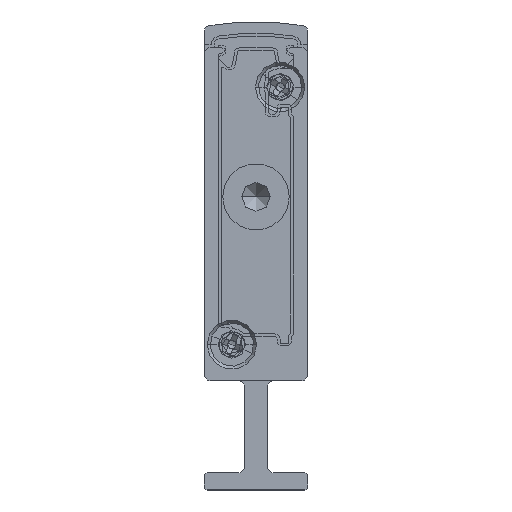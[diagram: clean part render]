
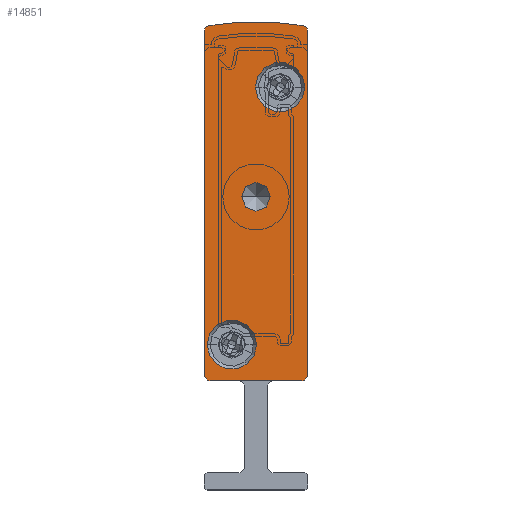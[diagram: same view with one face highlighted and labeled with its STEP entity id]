
A CAD part, front view. The second image highlights one B-rep face of the part: STEP entity #14851.
In plain terms, the highlighted planar face has unit normal (0, -1, 0).
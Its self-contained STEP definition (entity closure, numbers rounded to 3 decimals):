
#195 = CARTESIAN_POINT ( 'NONE',  ( 9., -2.5, 39.902 ) ) ;
#363 = CARTESIAN_POINT ( 'NONE',  ( 0.5, -2.5, 9.5 ) ) ;
#746 = DIRECTION ( 'NONE',  ( 0., 1., 0. ) ) ;
#1040 = CIRCLE ( 'NONE', #24883, 0.5 ) ;
#1527 = CARTESIAN_POINT ( 'NONE',  ( 4.45, -2.5, 35.05 ) ) ;
#1553 = VERTEX_POINT ( 'NONE', #28549 ) ;
#1564 = AXIS2_PLACEMENT_3D ( 'NONE', #1580, #14785, #32789 ) ;
#1580 = CARTESIAN_POINT ( 'NONE',  ( 4.5, -2.5, 17.092 ) ) ;
#1626 = CARTESIAN_POINT ( 'NONE',  ( 4.5, -2.5, 25.5 ) ) ;
#1858 = CARTESIAN_POINT ( 'NONE',  ( 9., -2.5, 39.902 ) ) ;
#2607 = VERTEX_POINT ( 'NONE', #23679 ) ;
#2705 = EDGE_LOOP ( 'NONE', ( #8059, #23658 ) ) ;
#2905 = ORIENTED_EDGE ( 'NONE', *, *, #10804, .T. ) ;
#3435 = CIRCLE ( 'NONE', #33005, 1.25 ) ;
#3471 = DIRECTION ( 'NONE',  ( 0., 1., 0. ) ) ;
#3594 = EDGE_CURVE ( 'NONE', #1553, #24742, #21999, .T. ) ;
#3724 = DIRECTION ( 'NONE',  ( -1., 0., 0. ) ) ;
#4087 = DIRECTION ( 'NONE',  ( 0., -1., 0. ) ) ;
#4540 = FACE_OUTER_BOUND ( 'NONE', #31532, .T. ) ;
#4893 = DIRECTION ( 'NONE',  ( 1., 0., 0. ) ) ;
#5768 = ORIENTED_EDGE ( 'NONE', *, *, #20514, .F. ) ;
#6036 = VERTEX_POINT ( 'NONE', #31776 ) ;
#6201 = VERTEX_POINT ( 'NONE', #12259 ) ;
#6414 = CARTESIAN_POINT ( 'NONE',  ( 8.75, -2.5, 35.05 ) ) ;
#6557 = FACE_BOUND ( 'NONE', #12579, .T. ) ;
#6597 = DIRECTION ( 'NONE',  ( 0., 1., 0. ) ) ;
#6672 = CARTESIAN_POINT ( 'NONE',  ( 0.408, -2.5, 40.393 ) ) ;
#6696 = DIRECTION ( 'NONE',  ( 1., 0., 0. ) ) ;
#7284 = CARTESIAN_POINT ( 'NONE',  ( 2.4, -2.5, 12.65 ) ) ;
#8045 = EDGE_CURVE ( 'NONE', #31394, #1553, #19848, .T. ) ;
#8059 = ORIENTED_EDGE ( 'NONE', *, *, #30295, .F. ) ;
#8340 = VECTOR ( 'NONE', #29614, 1000. ) ;
#8553 = ORIENTED_EDGE ( 'NONE', *, *, #8045, .F. ) ;
#8890 = DIRECTION ( 'NONE',  ( -1., 0., 0. ) ) ;
#9045 = DIRECTION ( 'NONE',  ( 0., 1., 0. ) ) ;
#9182 = ORIENTED_EDGE ( 'NONE', *, *, #17121, .F. ) ;
#9737 = VERTEX_POINT ( 'NONE', #195 ) ;
#9767 = FACE_BOUND ( 'NONE', #2705, .T. ) ;
#10161 = ORIENTED_EDGE ( 'NONE', *, *, #20490, .T. ) ;
#10175 = AXIS2_PLACEMENT_3D ( 'NONE', #27470, #32610, #24514 ) ;
#10804 = EDGE_CURVE ( 'NONE', #16239, #20178, #3435, .T. ) ;
#11852 = EDGE_LOOP ( 'NONE', ( #2905, #10161 ) ) ;
#11909 = CIRCLE ( 'NONE', #17206, 0.5 ) ;
#12007 = CARTESIAN_POINT ( 'NONE',  ( 0., -2.5, 39.902 ) ) ;
#12045 = AXIS2_PLACEMENT_3D ( 'NONE', #16105, #746, #21326 ) ;
#12259 = CARTESIAN_POINT ( 'NONE',  ( 0., -2.5, 10. ) ) ;
#12329 = LINE ( 'NONE', #12007, #30910 ) ;
#12579 = EDGE_LOOP ( 'NONE', ( #25500, #18620 ) ) ;
#12636 = CIRCLE ( 'NONE', #25398, 2.15 ) ;
#12711 = CIRCLE ( 'NONE', #33371, 2.15 ) ;
#13288 = EDGE_CURVE ( 'NONE', #13713, #14904, #27720, .T. ) ;
#13370 = CIRCLE ( 'NONE', #10175, 2.15 ) ;
#13713 = VERTEX_POINT ( 'NONE', #26703 ) ;
#13961 = ORIENTED_EDGE ( 'NONE', *, *, #13288, .F. ) ;
#14023 = DIRECTION ( 'NONE',  ( -1., 0., 0. ) ) ;
#14136 = CARTESIAN_POINT ( 'NONE',  ( 8.5, -2.5, 10. ) ) ;
#14184 = CARTESIAN_POINT ( 'NONE',  ( 4.5, -2.5, 25.5 ) ) ;
#14410 = DIRECTION ( 'NONE',  ( 1., 0., 0. ) ) ;
#14464 = EDGE_CURVE ( 'NONE', #6036, #2607, #12636, .T. ) ;
#14785 = DIRECTION ( 'NONE',  ( 0., 1., 0. ) ) ;
#14851 = ADVANCED_FACE ( 'NONE', ( #6557, #9767, #4540, #16678 ), #26637, .F. ) ;
#14904 = VERTEX_POINT ( 'NONE', #6672 ) ;
#15184 = CARTESIAN_POINT ( 'NONE',  ( 3.25, -2.5, 25.5 ) ) ;
#16105 = CARTESIAN_POINT ( 'NONE',  ( 0.5, -2.5, 39.902 ) ) ;
#16239 = VERTEX_POINT ( 'NONE', #15184 ) ;
#16304 = AXIS2_PLACEMENT_3D ( 'NONE', #1626, #32486, #22116 ) ;
#16655 = CARTESIAN_POINT ( 'NONE',  ( 2.4, -2.5, 12.65 ) ) ;
#16678 = FACE_BOUND ( 'NONE', #11852, .T. ) ;
#16889 = DIRECTION ( 'NONE',  ( -1., 0., 0. ) ) ;
#17121 = EDGE_CURVE ( 'NONE', #14904, #24388, #19034, .T. ) ;
#17206 = AXIS2_PLACEMENT_3D ( 'NONE', #21655, #6597, #26996 ) ;
#17452 = DIRECTION ( 'NONE',  ( 0., 0., -1. ) ) ;
#17780 = CARTESIAN_POINT ( 'NONE',  ( 8.592, -2.5, 40.393 ) ) ;
#18139 = EDGE_CURVE ( 'NONE', #24223, #28793, #31861, .T. ) ;
#18620 = ORIENTED_EDGE ( 'NONE', *, *, #18139, .F. ) ;
#19034 = CIRCLE ( 'NONE', #1564, 23.658 ) ;
#19517 = DIRECTION ( 'NONE',  ( 0., 1., 0. ) ) ;
#19848 = CIRCLE ( 'NONE', #29636, 0.5 ) ;
#19959 = CARTESIAN_POINT ( 'NONE',  ( 5.75, -2.5, 25.5 ) ) ;
#20178 = VERTEX_POINT ( 'NONE', #19959 ) ;
#20182 = AXIS2_PLACEMENT_3D ( 'NONE', #24434, #29829, #14410 ) ;
#20186 = EDGE_CURVE ( 'NONE', #6201, #13713, #12329, .T. ) ;
#20490 = EDGE_CURVE ( 'NONE', #20178, #16239, #27670, .T. ) ;
#20514 = EDGE_CURVE ( 'NONE', #24742, #6201, #1040, .T. ) ;
#20637 = ORIENTED_EDGE ( 'NONE', *, *, #20186, .F. ) ;
#21326 = DIRECTION ( 'NONE',  ( -1., 0., 0. ) ) ;
#21655 = CARTESIAN_POINT ( 'NONE',  ( 8.5, -2.5, 39.902 ) ) ;
#21999 = LINE ( 'NONE', #26720, #8340 ) ;
#22001 = CARTESIAN_POINT ( 'NONE',  ( 0.5, -2.5, 10. ) ) ;
#22116 = DIRECTION ( 'NONE',  ( -1., 0., 0. ) ) ;
#22221 = ORIENTED_EDGE ( 'NONE', *, *, #30272, .F. ) ;
#22576 = DIRECTION ( 'NONE',  ( 0., -1., 0. ) ) ;
#23463 = EDGE_CURVE ( 'NONE', #9737, #31394, #33277, .T. ) ;
#23482 = ORIENTED_EDGE ( 'NONE', *, *, #3594, .F. ) ;
#23658 = ORIENTED_EDGE ( 'NONE', *, *, #14464, .F. ) ;
#23679 = CARTESIAN_POINT ( 'NONE',  ( 4.55, -2.5, 12.65 ) ) ;
#24102 = AXIS2_PLACEMENT_3D ( 'NONE', #31783, #9045, #3724 ) ;
#24217 = EDGE_CURVE ( 'NONE', #28793, #24223, #13370, .T. ) ;
#24223 = VERTEX_POINT ( 'NONE', #1527 ) ;
#24388 = VERTEX_POINT ( 'NONE', #17780 ) ;
#24434 = CARTESIAN_POINT ( 'NONE',  ( 6.6, -2.5, 35.05 ) ) ;
#24514 = DIRECTION ( 'NONE',  ( 1., 0., 0. ) ) ;
#24742 = VERTEX_POINT ( 'NONE', #363 ) ;
#24840 = DIRECTION ( 'NONE',  ( 0., 1., 0. ) ) ;
#24883 = AXIS2_PLACEMENT_3D ( 'NONE', #22001, #24840, #16889 ) ;
#25398 = AXIS2_PLACEMENT_3D ( 'NONE', #7284, #22576, #4893 ) ;
#25500 = ORIENTED_EDGE ( 'NONE', *, *, #24217, .F. ) ;
#26637 = PLANE ( 'NONE',  #24102 ) ;
#26703 = CARTESIAN_POINT ( 'NONE',  ( 0., -2.5, 39.902 ) ) ;
#26720 = CARTESIAN_POINT ( 'NONE',  ( 0.5, -2.5, 9.5 ) ) ;
#26996 = DIRECTION ( 'NONE',  ( -1., 0., 0. ) ) ;
#27470 = CARTESIAN_POINT ( 'NONE',  ( 6.6, -2.5, 35.05 ) ) ;
#27670 = CIRCLE ( 'NONE', #16304, 1.25 ) ;
#27720 = CIRCLE ( 'NONE', #12045, 0.5 ) ;
#28549 = CARTESIAN_POINT ( 'NONE',  ( 8.5, -2.5, 9.5 ) ) ;
#28793 = VERTEX_POINT ( 'NONE', #6414 ) ;
#29614 = DIRECTION ( 'NONE',  ( -1., 0., 0. ) ) ;
#29636 = AXIS2_PLACEMENT_3D ( 'NONE', #14136, #19517, #14023 ) ;
#29829 = DIRECTION ( 'NONE',  ( 0., -1., 0. ) ) ;
#30175 = CARTESIAN_POINT ( 'NONE',  ( 9., -2.5, 10. ) ) ;
#30272 = EDGE_CURVE ( 'NONE', #24388, #9737, #11909, .T. ) ;
#30295 = EDGE_CURVE ( 'NONE', #2607, #6036, #12711, .T. ) ;
#30910 = VECTOR ( 'NONE', #32364, 1000. ) ;
#31394 = VERTEX_POINT ( 'NONE', #30175 ) ;
#31532 = EDGE_LOOP ( 'NONE', ( #13961, #20637, #5768, #23482, #8553, #31771, #22221, #9182 ) ) ;
#31640 = VECTOR ( 'NONE', #17452, 1000. ) ;
#31771 = ORIENTED_EDGE ( 'NONE', *, *, #23463, .F. ) ;
#31776 = CARTESIAN_POINT ( 'NONE',  ( 0.25, -2.5, 12.65 ) ) ;
#31783 = CARTESIAN_POINT ( 'NONE',  ( 0.5, -2.5, 39.902 ) ) ;
#31861 = CIRCLE ( 'NONE', #20182, 2.15 ) ;
#32364 = DIRECTION ( 'NONE',  ( 0., 0., 1. ) ) ;
#32486 = DIRECTION ( 'NONE',  ( 0., 1., 0. ) ) ;
#32610 = DIRECTION ( 'NONE',  ( 0., -1., 0. ) ) ;
#32789 = DIRECTION ( 'NONE',  ( -1., 0., 0. ) ) ;
#33005 = AXIS2_PLACEMENT_3D ( 'NONE', #14184, #3471, #8890 ) ;
#33277 = LINE ( 'NONE', #1858, #31640 ) ;
#33371 = AXIS2_PLACEMENT_3D ( 'NONE', #16655, #4087, #6696 ) ;
